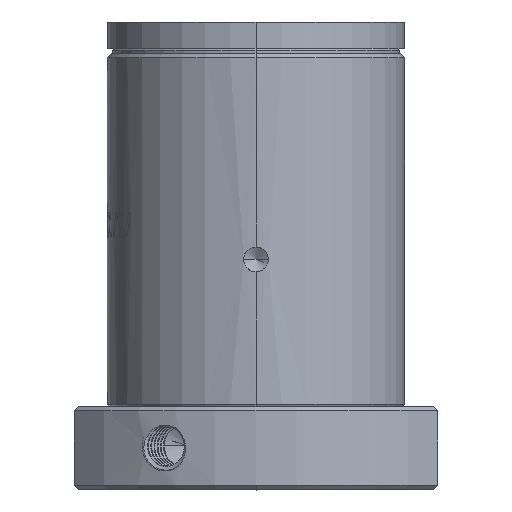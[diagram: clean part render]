
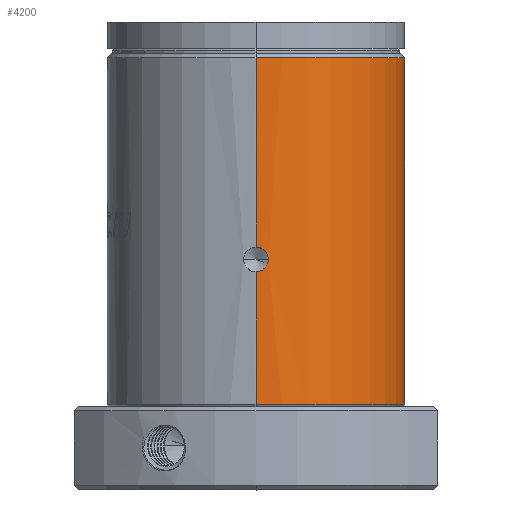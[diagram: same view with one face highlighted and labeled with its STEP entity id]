
A CAD part, top view. The second image highlights one B-rep face of the part: STEP entity #4200.
In plain terms, the highlighted cylindrical face has radius 18 mm (diameter 36 mm), a partial arc.
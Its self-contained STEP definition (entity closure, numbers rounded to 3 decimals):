
#115 = ORIENTED_EDGE ( 'NONE', *, *, #22808, .T. ) ;
#190 = CARTESIAN_POINT ( 'NONE',  ( 0., 5.3, 18. ) ) ;
#205 = EDGE_LOOP ( 'NONE', ( #115, #14759, #23193, #13908, #22072, #11841, #27849 ) ) ;
#734 = VERTEX_POINT ( 'NONE', #17104 ) ;
#1104 = CARTESIAN_POINT ( 'NONE',  ( 0., 5.3, 0. ) ) ;
#1318 = CARTESIAN_POINT ( 'NONE',  ( 1.5, 22.841, 17.937 ) ) ;
#1424 = AXIS2_PLACEMENT_3D ( 'NONE', #1104, #13341, #22400 ) ;
#1427 = DIRECTION ( 'NONE',  ( 0., -1., 0. ) ) ;
#1683 = VECTOR ( 'NONE', #13258, 1000. ) ;
#1919 = EDGE_CURVE ( 'NONE', #734, #27667, #16209, .T. ) ;
#1957 = CARTESIAN_POINT ( 'NONE',  ( 0.393, 24.302, 17.997 ) ) ;
#2021 = VERTEX_POINT ( 'NONE', #4014 ) ;
#2224 = CARTESIAN_POINT ( 'NONE',  ( 1.5, 22.742, 17.937 ) ) ;
#2518 = VERTEX_POINT ( 'NONE', #4928 ) ;
#2536 = CARTESIAN_POINT ( 'NONE',  ( 0.754, 21.53, 17.985 ) ) ;
#2691 = CARTESIAN_POINT ( 'NONE',  ( 0.922, 21.642, 17.977 ) ) ;
#2858 = CARTESIAN_POINT ( 'NONE',  ( 0., 47.3, 0. ) ) ;
#3012 = DIRECTION ( 'NONE',  ( 0., -1., 0. ) ) ;
#4014 = CARTESIAN_POINT ( 'NONE',  ( 0., 47.3, 18. ) ) ;
#4084 = CYLINDRICAL_SURFACE ( 'NONE', #17781, 18. ) ;
#4169 = CARTESIAN_POINT ( 'NONE',  ( 0.991, 23.971, 17.973 ) ) ;
#4200 = ADVANCED_FACE ( 'NONE', ( #25370 ), #4084, .T. ) ;
#4928 = CARTESIAN_POINT ( 'NONE',  ( 0., 24.341, 18. ) ) ;
#5041 = AXIS2_PLACEMENT_3D ( 'NONE', #2858, #3012, #14465 ) ;
#5131 = DIRECTION ( 'NONE',  ( 0., -1., 0. ) ) ;
#6570 = CARTESIAN_POINT ( 'NONE',  ( 0.751, 24.143, 17.985 ) ) ;
#7316 = CARTESIAN_POINT ( 'NONE',  ( 1.5, 22.841, 17.937 ) ) ;
#7782 = CARTESIAN_POINT ( 'NONE',  ( 1.423, 22.357, 17.944 ) ) ;
#8184 = LINE ( 'NONE', #15323, #1683 ) ;
#8681 = VECTOR ( 'NONE', #1427, 1000. ) ;
#8956 = CARTESIAN_POINT ( 'NONE',  ( 0., 24.341, 18. ) ) ;
#9063 = EDGE_CURVE ( 'NONE', #23361, #14406, #30348, .T. ) ;
#9074 = VERTEX_POINT ( 'NONE', #29861 ) ;
#9869 = CARTESIAN_POINT ( 'NONE',  ( 0., 21.341, 18. ) ) ;
#10025 = CARTESIAN_POINT ( 'NONE',  ( 0.393, 21.38, 17.997 ) ) ;
#11841 = ORIENTED_EDGE ( 'NONE', *, *, #9063, .F. ) ;
#12395 = CARTESIAN_POINT ( 'NONE',  ( 0.196, 21.341, 18. ) ) ;
#13258 = DIRECTION ( 'NONE',  ( 0., -1., 0. ) ) ;
#13341 = DIRECTION ( 'NONE',  ( 0., -1., 0. ) ) ;
#13583 = CARTESIAN_POINT ( 'NONE',  ( 0., 21.341, 18. ) ) ;
#13878 = CARTESIAN_POINT ( 'NONE',  ( 1.31, 23.597, 17.952 ) ) ;
#13908 = ORIENTED_EDGE ( 'NONE', *, *, #1919, .T. ) ;
#14406 = VERTEX_POINT ( 'NONE', #190 ) ;
#14465 = DIRECTION ( 'NONE',  ( 0., 0., 1. ) ) ;
#14759 = ORIENTED_EDGE ( 'NONE', *, *, #23447, .T. ) ;
#15323 = CARTESIAN_POINT ( 'NONE',  ( 0., 47.8, -18. ) ) ;
#15535 = DIRECTION ( 'NONE',  ( 0., 0., -1. ) ) ;
#15990 = DIRECTION ( 'NONE',  ( 0., -1., 0. ) ) ;
#16209 = B_SPLINE_CURVE_WITH_KNOTS ( 'NONE', 3,
 ( #7316, #2224, #16985, #31274, #7782, #21930, #24303, #24459, #19714, #2691, #2536, #10025, #12395, #9869 ),
 .UNSPECIFIED., .F., .F.,
 ( 4, 2, 2, 2, 2, 2, 4 ),
 ( 0., 0., 0.001, 0.001, 0.001, 0.002, 0.002 ),
 .UNSPECIFIED. ) ;
#16358 = LINE ( 'NONE', #23195, #8681 ) ;
#16985 = CARTESIAN_POINT ( 'NONE',  ( 1.49, 22.644, 17.938 ) ) ;
#17104 = CARTESIAN_POINT ( 'NONE',  ( 1.5, 22.841, 17.937 ) ) ;
#17234 = VECTOR ( 'NONE', #5131, 1000. ) ;
#17781 = AXIS2_PLACEMENT_3D ( 'NONE', #27898, #15990, #15535 ) ;
#17942 = B_SPLINE_CURVE_WITH_KNOTS ( 'NONE', 3,
 ( #8956, #30850, #1957, #26090, #6570, #25930, #4169, #20711, #13878, #31012, #28299, #1318 ),
 .UNSPECIFIED., .F., .F.,
 ( 4, 2, 2, 2, 2, 4 ),
 ( 0.007, 0.008, 0.008, 0.008, 0.009, 0.009 ),
 .UNSPECIFIED. ) ;
#19714 = CARTESIAN_POINT ( 'NONE',  ( 1.129, 21.849, 17.965 ) ) ;
#20711 = CARTESIAN_POINT ( 'NONE',  ( 1.199, 23.764, 17.961 ) ) ;
#21161 = EDGE_CURVE ( 'NONE', #9074, #23361, #8184, .T. ) ;
#21930 = CARTESIAN_POINT ( 'NONE',  ( 1.348, 22.175, 17.95 ) ) ;
#22072 = ORIENTED_EDGE ( 'NONE', *, *, #26108, .T. ) ;
#22400 = DIRECTION ( 'NONE',  ( 0., 0., -1. ) ) ;
#22808 = EDGE_CURVE ( 'NONE', #9074, #2021, #25335, .T. ) ;
#23193 = ORIENTED_EDGE ( 'NONE', *, *, #30589, .T. ) ;
#23195 = CARTESIAN_POINT ( 'NONE',  ( 0., 47.8, 18. ) ) ;
#23361 = VERTEX_POINT ( 'NONE', #28486 ) ;
#23447 = EDGE_CURVE ( 'NONE', #2021, #2518, #26880, .T. ) ;
#24303 = CARTESIAN_POINT ( 'NONE',  ( 1.302, 22.089, 17.953 ) ) ;
#24459 = CARTESIAN_POINT ( 'NONE',  ( 1.193, 21.926, 17.961 ) ) ;
#25335 = CIRCLE ( 'NONE', #5041, 18. ) ;
#25370 = FACE_OUTER_BOUND ( 'NONE', #205, .T. ) ;
#25930 = CARTESIAN_POINT ( 'NONE',  ( 0.914, 24.034, 17.977 ) ) ;
#26090 = CARTESIAN_POINT ( 'NONE',  ( 0.665, 24.189, 17.988 ) ) ;
#26108 = EDGE_CURVE ( 'NONE', #27667, #14406, #16358, .T. ) ;
#26880 = LINE ( 'NONE', #29277, #17234 ) ;
#27667 = VERTEX_POINT ( 'NONE', #13583 ) ;
#27849 = ORIENTED_EDGE ( 'NONE', *, *, #21161, .F. ) ;
#27898 = CARTESIAN_POINT ( 'NONE',  ( 0., 47.8, 0. ) ) ;
#28299 = CARTESIAN_POINT ( 'NONE',  ( 1.5, 23.039, 17.937 ) ) ;
#28486 = CARTESIAN_POINT ( 'NONE',  ( 0., 5.3, -18. ) ) ;
#29277 = CARTESIAN_POINT ( 'NONE',  ( 0., 47.8, 18. ) ) ;
#29861 = CARTESIAN_POINT ( 'NONE',  ( 0., 47.3, -18. ) ) ;
#30348 = CIRCLE ( 'NONE', #1424, 18. ) ;
#30589 = EDGE_CURVE ( 'NONE', #2518, #734, #17942, .T. ) ;
#30850 = CARTESIAN_POINT ( 'NONE',  ( 0.198, 24.341, 18. ) ) ;
#31012 = CARTESIAN_POINT ( 'NONE',  ( 1.46, 23.236, 17.941 ) ) ;
#31274 = CARTESIAN_POINT ( 'NONE',  ( 1.452, 22.452, 17.941 ) ) ;
